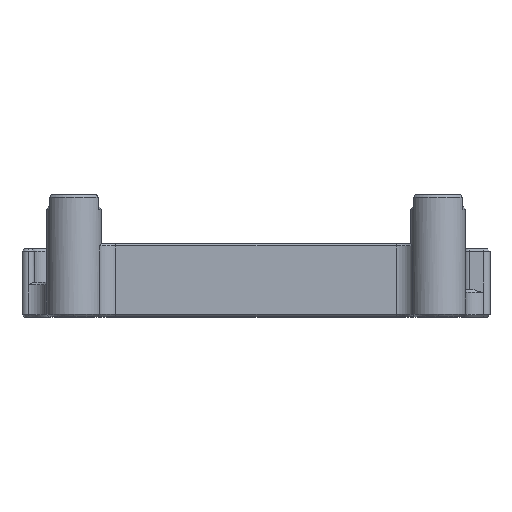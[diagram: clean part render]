
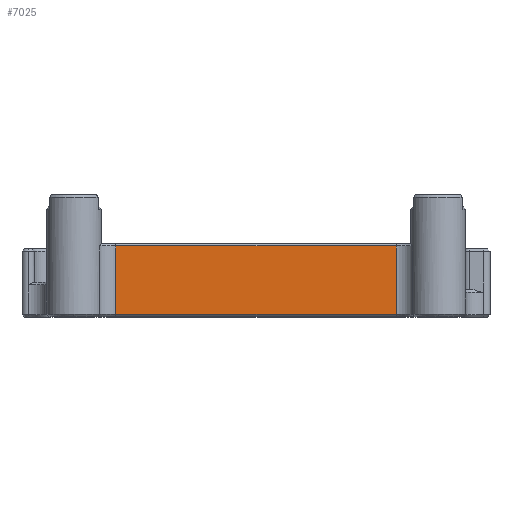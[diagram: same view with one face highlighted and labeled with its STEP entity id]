
A CAD part, top view. The second image highlights one B-rep face of the part: STEP entity #7025.
In plain terms, the highlighted planar face has unit normal (0, 0, 1).
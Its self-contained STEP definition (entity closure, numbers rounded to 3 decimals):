
#75 = EDGE_CURVE ( 'NONE', #1147, #3676, #4370, .T. ) ;
#112 = DIRECTION ( 'NONE',  ( 0., -1., 0. ) ) ;
#430 = VECTOR ( 'NONE', #1679, 1000. ) ;
#612 = EDGE_CURVE ( 'NONE', #2907, #5566, #5025, .T. ) ;
#618 = LINE ( 'NONE', #4455, #430 ) ;
#686 = DIRECTION ( 'NONE',  ( -1., 0., 0. ) ) ;
#1147 = VERTEX_POINT ( 'NONE', #2599 ) ;
#1198 = DIRECTION ( 'NONE',  ( 0., 0., -1. ) ) ;
#1345 = CARTESIAN_POINT ( 'NONE',  ( -17.15, 6., 11. ) ) ;
#1546 = ORIENTED_EDGE ( 'NONE', *, *, #612, .T. ) ;
#1679 = DIRECTION ( 'NONE',  ( -1., 0., 0. ) ) ;
#1752 = VECTOR ( 'NONE', #112, 1000. ) ;
#2418 = CARTESIAN_POINT ( 'NONE',  ( -17.15, 0.2, 11. ) ) ;
#2504 = VECTOR ( 'NONE', #4090, 1000. ) ;
#2599 = CARTESIAN_POINT ( 'NONE',  ( 11.463, 0.2, 11. ) ) ;
#2907 = VERTEX_POINT ( 'NONE', #4442 ) ;
#3272 = CARTESIAN_POINT ( 'NONE',  ( 11.463, 5.8, 11. ) ) ;
#3513 = EDGE_CURVE ( 'NONE', #3676, #2907, #618, .T. ) ;
#3676 = VERTEX_POINT ( 'NONE', #3272 ) ;
#3914 = AXIS2_PLACEMENT_3D ( 'NONE', #1345, #1198, #686 ) ;
#3915 = FACE_OUTER_BOUND ( 'NONE', #5587, .T. ) ;
#3947 = CARTESIAN_POINT ( 'NONE',  ( -11.463, 0., 11. ) ) ;
#4090 = DIRECTION ( 'NONE',  ( 1., 0., 0. ) ) ;
#4223 = VECTOR ( 'NONE', #5962, 1000. ) ;
#4370 = LINE ( 'NONE', #5464, #4223 ) ;
#4442 = CARTESIAN_POINT ( 'NONE',  ( -11.463, 5.8, 11. ) ) ;
#4455 = CARTESIAN_POINT ( 'NONE',  ( -17.15, 5.8, 11. ) ) ;
#4711 = ORIENTED_EDGE ( 'NONE', *, *, #5773, .T. ) ;
#5025 = LINE ( 'NONE', #3947, #1752 ) ;
#5236 = LINE ( 'NONE', #2418, #2504 ) ;
#5464 = CARTESIAN_POINT ( 'NONE',  ( 11.463, 6., 11. ) ) ;
#5475 = CARTESIAN_POINT ( 'NONE',  ( -11.463, 0.2, 11. ) ) ;
#5566 = VERTEX_POINT ( 'NONE', #5475 ) ;
#5587 = EDGE_LOOP ( 'NONE', ( #1546, #4711, #6718, #6533 ) ) ;
#5773 = EDGE_CURVE ( 'NONE', #5566, #1147, #5236, .T. ) ;
#5962 = DIRECTION ( 'NONE',  ( 0., 1., 0. ) ) ;
#6190 = PLANE ( 'NONE',  #3914 ) ;
#6533 = ORIENTED_EDGE ( 'NONE', *, *, #3513, .T. ) ;
#6718 = ORIENTED_EDGE ( 'NONE', *, *, #75, .T. ) ;
#7025 = ADVANCED_FACE ( 'NONE', ( #3915 ), #6190, .F. ) ;
